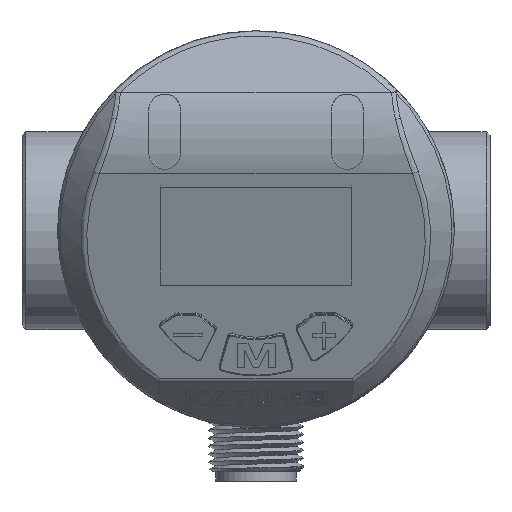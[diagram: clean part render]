
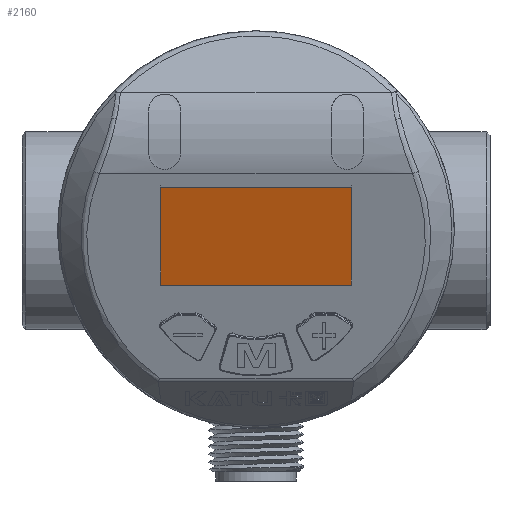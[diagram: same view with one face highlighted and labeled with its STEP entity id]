
A CAD part, top view. The second image highlights one B-rep face of the part: STEP entity #2160.
In plain terms, the highlighted planar face has unit normal (0, -0.342, 0.94).
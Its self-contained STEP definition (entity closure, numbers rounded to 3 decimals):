
#1355=PLANE('',#11657);
#2160=ADVANCED_FACE('',(#2752),#1355,.T.);
#2752=FACE_OUTER_BOUND('',#3465,.T.);
#3465=EDGE_LOOP('',(#6677,#6678,#6679,#6680));
#4289=LINE('',#23980,#5041);
#4290=LINE('',#23983,#5042);
#4291=LINE('',#23985,#5043);
#4292=LINE('',#23987,#5044);
#5041=VECTOR('',#13355,1.);
#5042=VECTOR('',#13356,1.);
#5043=VECTOR('',#13357,1.);
#5044=VECTOR('',#13358,1.);
#6677=ORIENTED_EDGE('',*,*,#9944,.T.);
#6678=ORIENTED_EDGE('',*,*,#9945,.T.);
#6679=ORIENTED_EDGE('',*,*,#9946,.T.);
#6680=ORIENTED_EDGE('',*,*,#9947,.T.);
#8821=VERTEX_POINT('',#23981);
#8822=VERTEX_POINT('',#23982);
#8823=VERTEX_POINT('',#23984);
#8824=VERTEX_POINT('',#23986);
#9944=EDGE_CURVE('',#8821,#8822,#4289,.T.);
#9945=EDGE_CURVE('',#8822,#8823,#4290,.T.);
#9946=EDGE_CURVE('',#8823,#8824,#4291,.T.);
#9947=EDGE_CURVE('',#8824,#8821,#4292,.T.);
#11657=AXIS2_PLACEMENT_3D('',#23988,#13359,#13360);
#13355=DIRECTION('',(0.,-0.94,-0.342));
#13356=DIRECTION('',(1.,0.,0.));
#13357=DIRECTION('',(0.,0.94,0.342));
#13358=DIRECTION('',(-1.,0.,0.));
#13359=DIRECTION('',(0.,-0.342,0.94));
#13360=DIRECTION('',(0.,-0.94,-0.342));
#23980=CARTESIAN_POINT('',(18.994,14.306,121.2));
#23981=CARTESIAN_POINT('',(18.998,5.258,117.907));
#23982=CARTESIAN_POINT('',(19.003,-7.061,113.423));
#23983=CARTESIAN_POINT('',(46.759,-7.051,113.427));
#23984=CARTESIAN_POINT('',(42.997,-7.052,113.426));
#23985=CARTESIAN_POINT('',(42.988,14.315,121.203));
#23986=CARTESIAN_POINT('',(42.992,5.267,117.91));
#23987=CARTESIAN_POINT('',(46.753,5.268,117.91));
#23988=CARTESIAN_POINT('',(46.75,14.316,121.204));
